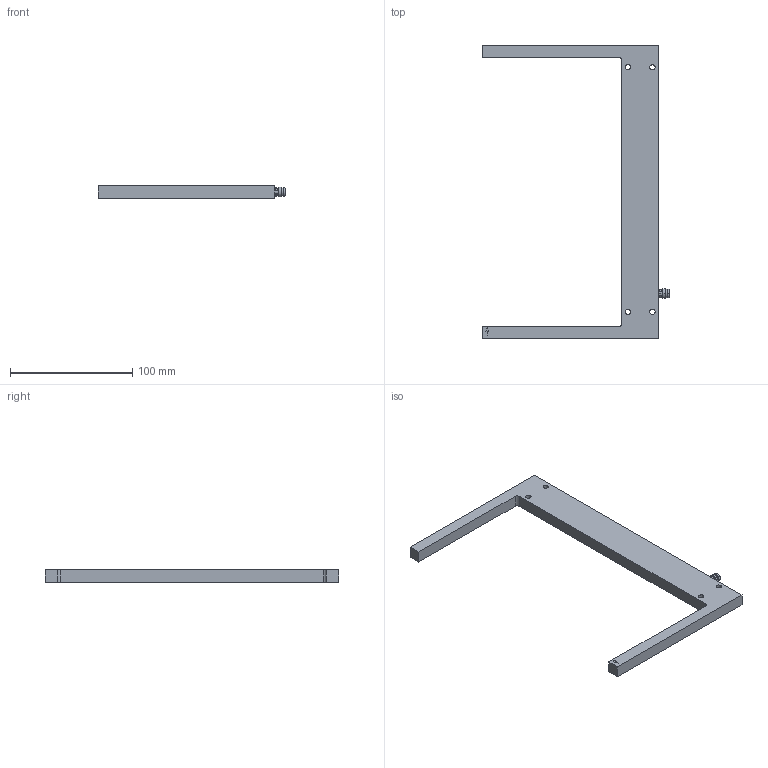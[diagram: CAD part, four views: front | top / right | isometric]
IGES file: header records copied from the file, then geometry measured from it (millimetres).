
Start section: Data from XPlus IGES,  Spatial Corp. Copyright (c) 1989-2001 .
Global section: file name: bgl_220a_001_s_49.igs; native system:  By Spatial Corp.; preprocessor: XPlus ACIS/IGES 3.0; author: Noname; organization: Noname; date: 20050407.011913; units: millimetre
Bounding box: 153 x 240 x 10 mm (x, y, z)
Surface area: 29702.2 mm2 (no closed solid volume)
Topology: 0 solids, 0 shells, 91 faces, 428 edges, 416 vertices
Faces by surface type: revolution 56, extrusion 35
